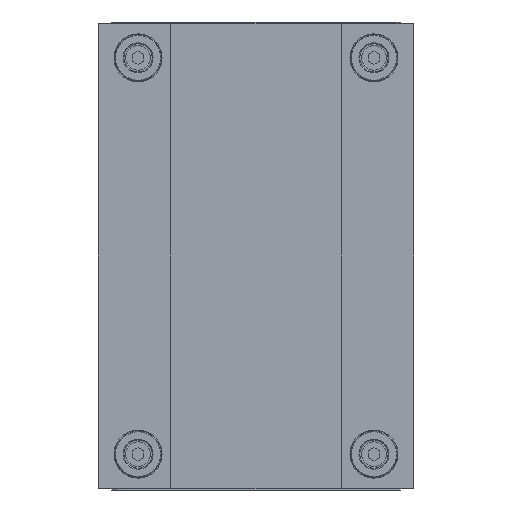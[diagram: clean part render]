
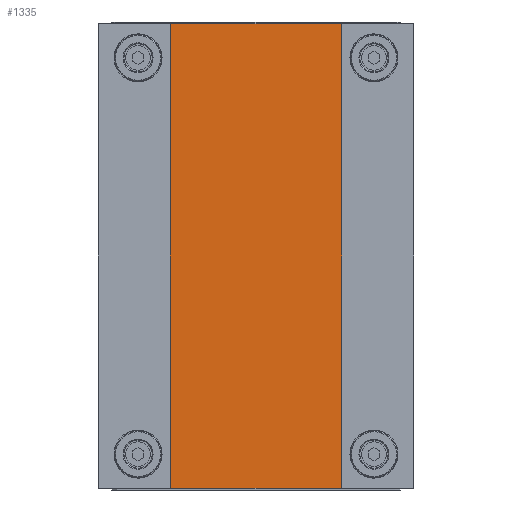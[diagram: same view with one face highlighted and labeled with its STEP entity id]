
A CAD part, front view. The second image highlights one B-rep face of the part: STEP entity #1335.
In plain terms, the highlighted planar face has unit normal (0, -1, 0).
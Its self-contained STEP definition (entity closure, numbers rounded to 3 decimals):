
#572 = VERTEX_POINT ( 'NONE', #2686 ) ;
#671 = EDGE_CURVE ( 'NONE', #572, #5849, #2939, .T. ) ;
#1072 = EDGE_CURVE ( 'NONE', #1106, #1491, #4102, .T. ) ;
#1106 = VERTEX_POINT ( 'NONE', #4252 ) ;
#1335 = ADVANCED_FACE ( 'NONE', ( #5693 ), #5694, .F. ) ;
#1382 = EDGE_LOOP ( 'NONE', ( #1463, #1627, #1735, #1902 ) ) ;
#1463 = ORIENTED_EDGE ( 'NONE', *, *, #1535, .T. ) ;
#1491 = VERTEX_POINT ( 'NONE', #6602 ) ;
#1535 = EDGE_CURVE ( 'NONE', #1491, #5849, #6838, .T. ) ;
#1627 = ORIENTED_EDGE ( 'NONE', *, *, #671, .F. ) ;
#1735 = ORIENTED_EDGE ( 'NONE', *, *, #1792, .F. ) ;
#1792 = EDGE_CURVE ( 'NONE', #1106, #572, #8023, .T. ) ;
#1902 = ORIENTED_EDGE ( 'NONE', *, *, #1072, .T. ) ;
#2686 = CARTESIAN_POINT ( 'NONE',  ( 49.5, -16., 123. ) ) ;
#2939 = LINE ( 'NONE', #2940, #2941 ) ;
#2940 = CARTESIAN_POINT ( 'NONE',  ( 49.5, -16., 123. ) ) ;
#2941 = VECTOR ( 'NONE', #2942, 1000. ) ;
#2942 = DIRECTION ( 'NONE',  ( 0., 0., -1. ) ) ;
#4102 = LINE ( 'NONE', #4103, #4104 ) ;
#4103 = CARTESIAN_POINT ( 'NONE',  ( -49.5, -16., 123. ) ) ;
#4104 = VECTOR ( 'NONE', #4105, 1000. ) ;
#4105 = DIRECTION ( 'NONE',  ( 0., 0., -1. ) ) ;
#4252 = CARTESIAN_POINT ( 'NONE',  ( -49.5, -16., 123. ) ) ;
#4602 = CARTESIAN_POINT ( 'NONE',  ( 49.5, -16., -123. ) ) ;
#5693 = FACE_OUTER_BOUND ( 'NONE', #1382, .T. ) ;
#5694 = PLANE ( 'NONE',  #5695 ) ;
#5695 = AXIS2_PLACEMENT_3D ( 'NONE', #5696, #5697, #5698 ) ;
#5696 = CARTESIAN_POINT ( 'NONE',  ( 49.5, -16., 123. ) ) ;
#5697 = DIRECTION ( 'NONE',  ( 0., 1., 0. ) ) ;
#5698 = DIRECTION ( 'NONE',  ( -1., 0., 0. ) ) ;
#5849 = VERTEX_POINT ( 'NONE', #4602 ) ;
#6602 = CARTESIAN_POINT ( 'NONE',  ( -49.5, -16., -123. ) ) ;
#6838 = LINE ( 'NONE', #6839, #6840 ) ;
#6839 = CARTESIAN_POINT ( 'NONE',  ( 49.5, -16., -123. ) ) ;
#6840 = VECTOR ( 'NONE', #6841, 1000. ) ;
#6841 = DIRECTION ( 'NONE',  ( 1., 0., 0. ) ) ;
#8023 = LINE ( 'NONE', #8024, #8025 ) ;
#8024 = CARTESIAN_POINT ( 'NONE',  ( 49.5, -16., 123. ) ) ;
#8025 = VECTOR ( 'NONE', #8028, 1000. ) ;
#8028 = DIRECTION ( 'NONE',  ( 1., 0., 0. ) ) ;
